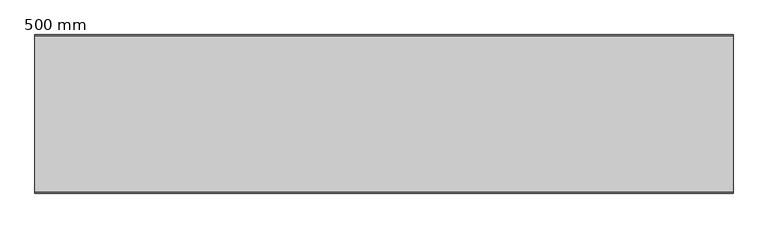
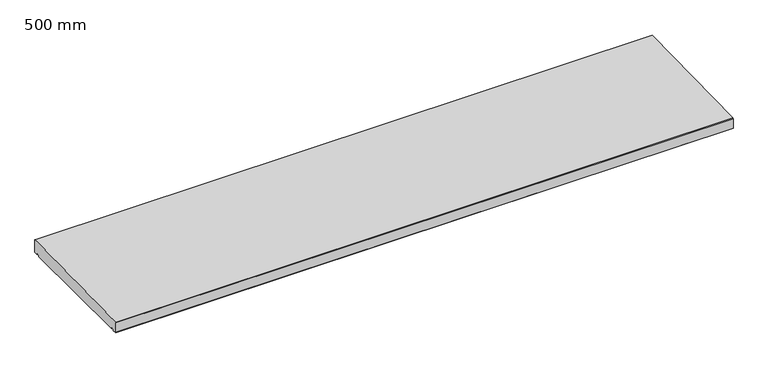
"""IFC4 building model written with IfcOpenShell, lengths in millimetres: proxy geometry, 400_35_NS_afdekker_éénzijdig_afwaterend : 500 mm."""

from ifc_helpers import new_model, si_unit, frame, origin, place, context, project, spatial, polyline, outline, extrude, source, transform, mapped, element, save


def proxy_500_mm_7bc9ffac(model_context):
    return source(origin(), model_context, "Body", "SweptSolid", [
        extrude(outline(polyline([(500.0, 2.0), (498.0, 0.0), (485.0, 0.0), (485.0, 5.0), (475.0, 5.0), (475.0, 0.0), (25.0, 0.0), (25.0, 5.0), (15.0, 5.0), (15.0, 0.0), (2.0, 0.0), (0.0, 2.0), (0.0, 38.0), (2.0, 40.0), (498.0, 50.0), (500.0, 48.0), (500.0, 2.0)])), frame((-1100.0, 0.0, 0.0), z_axis=(1.0, 0.0, 0.0), x_axis=(0.0, 1.0, 0.0)), (0.0, 0.0, 1.0), 2200.0),
    ])


if __name__ == "__main__":
    model = new_model("IFC4")
    model_context = context("Model", 3, world=origin())
    ifc_project = project(units=[si_unit("LENGTHUNIT", "METRE", prefix="MILLI")], contexts=[model_context])
    site = spatial("IfcSite", under=ifc_project)
    building = spatial("IfcBuilding", under=site)
    placement = place(None, origin())
    proxy_500_mm_shape = proxy_500_mm_7bc9ffac(model_context)
    element("IfcBuildingElementProxy", 1, Name="400_35_NS_afdekker_éénzijdig_afwaterend : 500 mm", ObjectType="400_35_NS_afdekker_éénzijdig_afwaterend : 500 mm", at=placement, inside=building, context=model_context, shape_type="MappedRepresentation", body=[
        mapped(proxy_500_mm_shape, transform((0.0, 0.0, 0.0), x_axis=(1.0, 0.0, 0.0), y_axis=(0.0, 1.0, 0.0), z_axis=(0.0, 0.0, 1.0))),
    ])
    save(model, "model.ifc")
